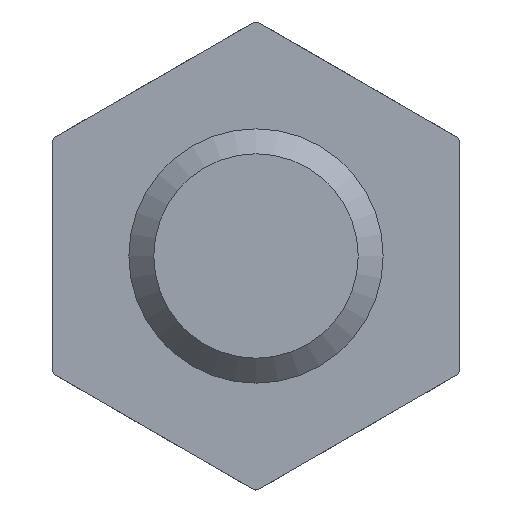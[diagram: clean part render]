
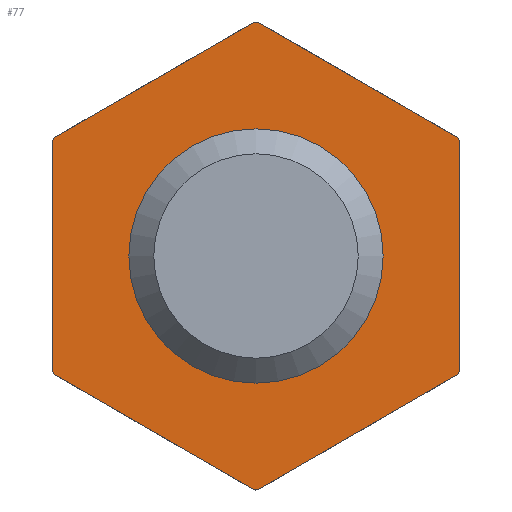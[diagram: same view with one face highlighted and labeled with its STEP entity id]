
A CAD part, front view. The second image highlights one B-rep face of the part: STEP entity #77.
In plain terms, the highlighted planar face has unit normal (0, -1, 0).
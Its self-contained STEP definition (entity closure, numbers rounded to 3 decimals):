
#77 = ADVANCED_FACE( '', ( #162, #163 ), #164, .F. );
#162 = FACE_BOUND( '', #282, .T. );
#163 = FACE_OUTER_BOUND( '', #283, .T. );
#164 = PLANE( '', #284 );
#282 = EDGE_LOOP( '', ( #421 ) );
#283 = EDGE_LOOP( '', ( #422, #423, #424, #425, #426, #427, #428, #429, #430, #431, #432, #433 ) );
#284 = AXIS2_PLACEMENT_3D( '', #434, #435, #436 );
#421 = ORIENTED_EDGE( '', *, *, #543, .F. );
#422 = ORIENTED_EDGE( '', *, *, #508, .T. );
#423 = ORIENTED_EDGE( '', *, *, #544, .T. );
#424 = ORIENTED_EDGE( '', *, *, #545, .T. );
#425 = ORIENTED_EDGE( '', *, *, #540, .T. );
#426 = ORIENTED_EDGE( '', *, *, #524, .T. );
#427 = ORIENTED_EDGE( '', *, *, #511, .T. );
#428 = ORIENTED_EDGE( '', *, *, #546, .T. );
#429 = ORIENTED_EDGE( '', *, *, #547, .T. );
#430 = ORIENTED_EDGE( '', *, *, #537, .T. );
#431 = ORIENTED_EDGE( '', *, *, #497, .T. );
#432 = ORIENTED_EDGE( '', *, *, #548, .T. );
#433 = ORIENTED_EDGE( '', *, *, #502, .T. );
#434 = CARTESIAN_POINT( '', ( 4.6, 3.7, 0. ) );
#435 = DIRECTION( '', ( 0., 1., 0. ) );
#436 = DIRECTION( '', ( 0., 0., 1. ) );
#497 = EDGE_CURVE( '', #571, #568, #572, .T. );
#502 = EDGE_CURVE( '', #580, #577, #581, .T. );
#508 = EDGE_CURVE( '', #577, #588, #590, .T. );
#511 = EDGE_CURVE( '', #595, #592, #596, .T. );
#524 = EDGE_CURVE( '', #613, #595, #614, .T. );
#537 = EDGE_CURVE( '', #633, #571, #634, .T. );
#540 = EDGE_CURVE( '', #637, #613, #638, .T. );
#543 = EDGE_CURVE( '', #641, #641, #642, .T. );
#544 = EDGE_CURVE( '', #588, #643, #644, .T. );
#545 = EDGE_CURVE( '', #643, #637, #645, .T. );
#546 = EDGE_CURVE( '', #592, #646, #647, .T. );
#547 = EDGE_CURVE( '', #646, #633, #648, .T. );
#548 = EDGE_CURVE( '', #568, #580, #649, .T. );
#568 = VERTEX_POINT( '', #669 );
#571 = VERTEX_POINT( '', #673 );
#572 = LINE( '', #674, #675 );
#577 = VERTEX_POINT( '', #688 );
#580 = VERTEX_POINT( '', #692 );
#581 = LINE( '', #693, #694 );
#588 = VERTEX_POINT( '', #709 );
#590 = CIRCLE( '', #712, 4.6 );
#592 = VERTEX_POINT( '', #714 );
#595 = VERTEX_POINT( '', #718 );
#596 = LINE( '', #719, #720 );
#613 = VERTEX_POINT( '', #745 );
#614 = CIRCLE( '', #746, 4.6 );
#633 = VERTEX_POINT( '', #791 );
#634 = CIRCLE( '', #792, 4.6 );
#637 = VERTEX_POINT( '', #796 );
#638 = LINE( '', #797, #798 );
#641 = VERTEX_POINT( '', #802 );
#642 = CIRCLE( '', #803, 2. );
#643 = VERTEX_POINT( '', #804 );
#644 = LINE( '', #805, #806 );
#645 = CIRCLE( '', #807, 4.6 );
#646 = VERTEX_POINT( '', #808 );
#647 = CIRCLE( '', #809, 4.6 );
#648 = LINE( '', #810, #811 );
#649 = CIRCLE( '', #812, 4.6 );
#669 = CARTESIAN_POINT( '', ( 0.033, 3.7, 4.6 ) );
#673 = CARTESIAN_POINT( '', ( 3.967, 3.7, 2.328 ) );
#674 = CARTESIAN_POINT( '', ( 5.45, 3.7, 1.472 ) );
#675 = VECTOR( '', #834, 1000. );
#688 = CARTESIAN_POINT( '', ( -3.967, 3.7, 2.328 ) );
#692 = CARTESIAN_POINT( '', ( -0.033, 3.7, 4.6 ) );
#693 = CARTESIAN_POINT( '', ( 1.45, 3.7, 5.456 ) );
#694 = VECTOR( '', #837, 1000. );
#709 = CARTESIAN_POINT( '', ( -4., 3.7, 2.272 ) );
#712 = AXIS2_PLACEMENT_3D( '', #843, #844, #845 );
#714 = CARTESIAN_POINT( '', ( 3.967, 3.7, -2.328 ) );
#718 = CARTESIAN_POINT( '', ( 0.033, 3.7, -4.6 ) );
#719 = CARTESIAN_POINT( '', ( 5.45, 3.7, -1.472 ) );
#720 = VECTOR( '', #847, 1000. );
#745 = CARTESIAN_POINT( '', ( -0.033, 3.7, -4.6 ) );
#746 = AXIS2_PLACEMENT_3D( '', #861, #862, #863 );
#791 = CARTESIAN_POINT( '', ( 4., 3.7, 2.272 ) );
#792 = AXIS2_PLACEMENT_3D( '', #883, #884, #885 );
#796 = CARTESIAN_POINT( '', ( -3.967, 3.7, -2.328 ) );
#797 = CARTESIAN_POINT( '', ( 1.45, 3.7, -5.456 ) );
#798 = VECTOR( '', #887, 1000. );
#802 = CARTESIAN_POINT( '', ( 0., 3.7, -2. ) );
#803 = AXIS2_PLACEMENT_3D( '', #889, #890, #891 );
#804 = CARTESIAN_POINT( '', ( -4., 3.7, -2.272 ) );
#805 = CARTESIAN_POINT( '', ( -4., 3.7, 0. ) );
#806 = VECTOR( '', #892, 1000. );
#807 = AXIS2_PLACEMENT_3D( '', #893, #894, #895 );
#808 = CARTESIAN_POINT( '', ( 4., 3.7, -2.272 ) );
#809 = AXIS2_PLACEMENT_3D( '', #896, #897, #898 );
#810 = CARTESIAN_POINT( '', ( 4., 3.7, 0. ) );
#811 = VECTOR( '', #899, 1000. );
#812 = AXIS2_PLACEMENT_3D( '', #900, #901, #902 );
#834 = DIRECTION( '', ( -0.866, 0., 0.5 ) );
#837 = DIRECTION( '', ( -0.866, 0., -0.5 ) );
#843 = CARTESIAN_POINT( '', ( 0., 3.7, 0. ) );
#844 = DIRECTION( '', ( 0., -1., 0. ) );
#845 = DIRECTION( '', ( 0., 0., -1. ) );
#847 = DIRECTION( '', ( 0.866, 0., 0.5 ) );
#861 = CARTESIAN_POINT( '', ( 0., 3.7, 0. ) );
#862 = DIRECTION( '', ( 0., -1., 0. ) );
#863 = DIRECTION( '', ( 0., 0., -1. ) );
#883 = CARTESIAN_POINT( '', ( 0., 3.7, 0. ) );
#884 = DIRECTION( '', ( 0., -1., 0. ) );
#885 = DIRECTION( '', ( 0., 0., -1. ) );
#887 = DIRECTION( '', ( 0.866, 0., -0.5 ) );
#889 = CARTESIAN_POINT( '', ( 0., 3.7, 0. ) );
#890 = DIRECTION( '', ( 0., -1., 0. ) );
#891 = DIRECTION( '', ( 0., 0., -1. ) );
#892 = DIRECTION( '', ( 0., 0., -1. ) );
#893 = CARTESIAN_POINT( '', ( 0., 3.7, 0. ) );
#894 = DIRECTION( '', ( 0., -1., 0. ) );
#895 = DIRECTION( '', ( 0., 0., -1. ) );
#896 = CARTESIAN_POINT( '', ( 0., 3.7, 0. ) );
#897 = DIRECTION( '', ( 0., -1., 0. ) );
#898 = DIRECTION( '', ( 0., 0., -1. ) );
#899 = DIRECTION( '', ( 0., 0., 1. ) );
#900 = CARTESIAN_POINT( '', ( 0., 3.7, 0. ) );
#901 = DIRECTION( '', ( 0., -1., 0. ) );
#902 = DIRECTION( '', ( 0., 0., -1. ) );
